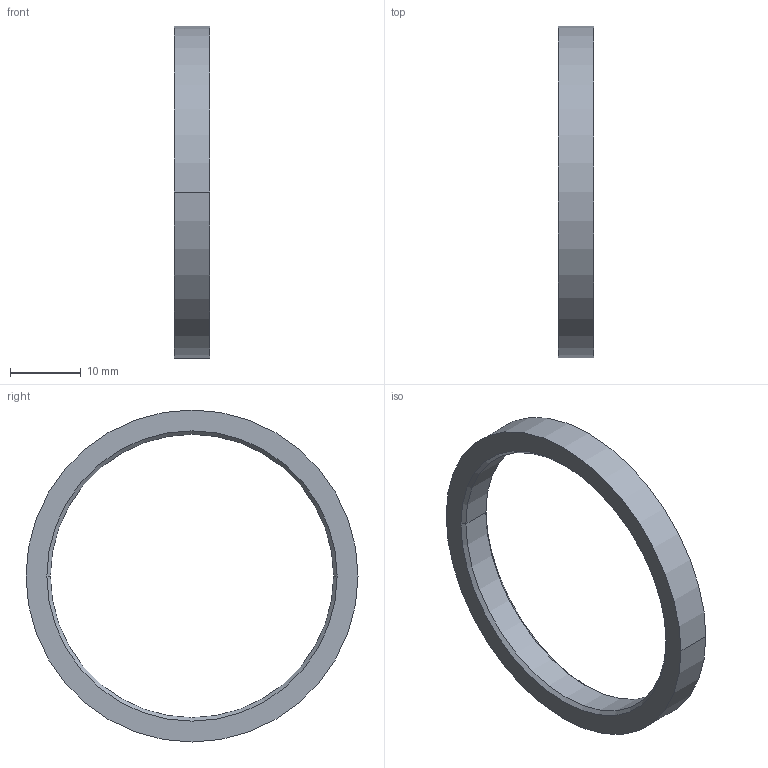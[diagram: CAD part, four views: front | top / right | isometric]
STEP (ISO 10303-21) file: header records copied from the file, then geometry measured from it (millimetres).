
FILE_DESCRIPTION(/* description */ ('VariCAD 2010-3.03 AP-214'),/* implementation_level */ '2;1');
FILE_NAME(/* name */ '0353-22-27',/* time_stamp */ '2011-06-29T10:12:25-06:00',/* author */ (''),/* organization */ (''),/* preprocessor_version */ 'ST-DEVELOPER v12',/* originating_system */ 'VariCAD 2010-3.03; kernel version (20100102)',/* authorisation */ '');
FILE_SCHEMA (('AUTOMOTIVE_DESIGN'));
Length unit declared in the file: millimetre
Products named in the file (1): Part
Bounding box: 5 x 47 x 47 mm (x, y, z)
Volume: 2328.3 mm3; surface area: 2239.1 mm2
Topology: 1 solids, 1 shells, 10 faces, 20 edges, 12 vertices
Faces by surface type: cylinder 4, cone 4, plane 2
Entity records: 295 total; most frequent: DIRECTION 56, CARTESIAN_POINT 44, ORIENTED_EDGE 40, AXIS2_PLACEMENT_3D 24, EDGE_CURVE 20, EDGE_LOOP 12, CIRCLE 12, VERTEX_POINT 12
